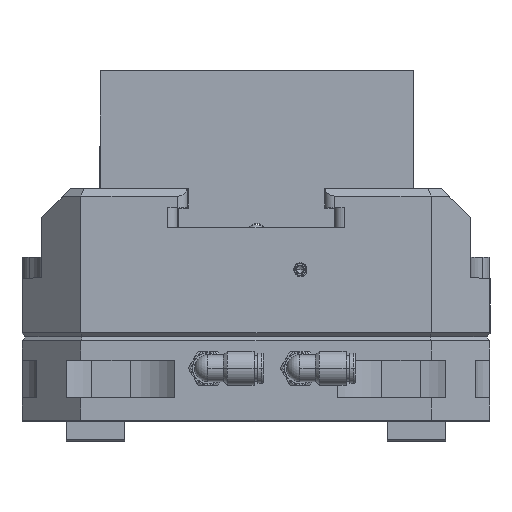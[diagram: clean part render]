
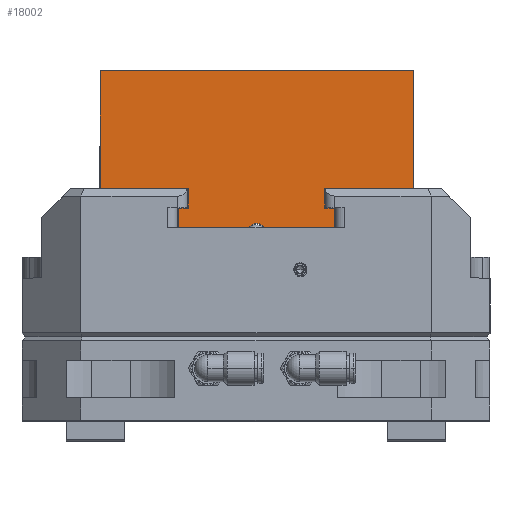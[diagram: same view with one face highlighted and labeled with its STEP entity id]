
A CAD part, top view. The second image highlights one B-rep face of the part: STEP entity #18002.
In plain terms, the highlighted planar face has unit normal (0, 0, 1).
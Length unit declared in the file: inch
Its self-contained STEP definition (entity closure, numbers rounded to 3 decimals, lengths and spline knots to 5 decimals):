
#107 = LINE ( 'NONE', #4350, #9128 ) ;
#203 = CARTESIAN_POINT ( 'NONE',  ( 1.29162, 2.13986, 3.38263 ) ) ;
#982 = VERTEX_POINT ( 'NONE', #10573 ) ;
#1047 = LINE ( 'NONE', #7465, #10092 ) ;
#1134 = EDGE_CURVE ( 'NONE', #982, #17897, #1047, .T. ) ;
#1209 = CARTESIAN_POINT ( 'NONE',  ( 0.28662, 1.88486, 3.38263 ) ) ;
#1356 = VECTOR ( 'NONE', #3711, 39.37008 ) ;
#1417 = DIRECTION ( 'NONE',  ( 0., 0., 1. ) ) ;
#1503 = EDGE_CURVE ( 'NONE', #21322, #16921, #8671, .T. ) ;
#1657 = CARTESIAN_POINT ( 'NONE',  ( -2.70838, 2.13986, 3.38263 ) ) ;
#1670 = ORIENTED_EDGE ( 'NONE', *, *, #6377, .T. ) ;
#1686 = LINE ( 'NONE', #13272, #6513 ) ;
#1924 = LINE ( 'NONE', #16207, #1356 ) ;
#1985 = DIRECTION ( 'NONE',  ( -1., 0., 0. ) ) ;
#2289 = CARTESIAN_POINT ( 'NONE',  ( 0.28662, 1.88486, 3.38263 ) ) ;
#3146 = LINE ( 'NONE', #14733, #11573 ) ;
#3182 = AXIS2_PLACEMENT_3D ( 'NONE', #7374, #12737, #1985 ) ;
#3466 = CARTESIAN_POINT ( 'NONE',  ( 1.29162, 2.13986, 3.38263 ) ) ;
#3711 = DIRECTION ( 'NONE',  ( 1., 0., 0. ) ) ;
#4014 = DIRECTION ( 'NONE',  ( 0., 1., 0. ) ) ;
#4021 = VERTEX_POINT ( 'NONE', #12891 ) ;
#4068 = VERTEX_POINT ( 'NONE', #18370 ) ;
#4169 = ORIENTED_EDGE ( 'NONE', *, *, #19452, .T. ) ;
#4242 = ORIENTED_EDGE ( 'NONE', *, *, #1503, .T. ) ;
#4350 = CARTESIAN_POINT ( 'NONE',  ( 0.16212, 1.88486, 3.38263 ) ) ;
#4554 = ORIENTED_EDGE ( 'NONE', *, *, #17189, .T. ) ;
#4654 = EDGE_LOOP ( 'NONE', ( #7060, #11845, #13523, #19040, #9666, #4242, #1670, #9730, #12095, #4554, #15351, #12847, #14062, #4169 ) ) ;
#4867 = CARTESIAN_POINT ( 'NONE',  ( -1.70338, 1.88486, 3.38263 ) ) ;
#5254 = CARTESIAN_POINT ( 'NONE',  ( -1.57888, 1.88486, 3.38263 ) ) ;
#5297 = VECTOR ( 'NONE', #18915, 39.37008 ) ;
#5752 = DIRECTION ( 'NONE',  ( 1., 0., 0. ) ) ;
#6017 = EDGE_CURVE ( 'NONE', #22630, #18989, #1924, .T. ) ;
#6086 = FACE_OUTER_BOUND ( 'NONE', #4654, .T. ) ;
#6377 = EDGE_CURVE ( 'NONE', #16921, #10516, #12018, .T. ) ;
#6513 = VECTOR ( 'NONE', #21782, 39.37008 ) ;
#6599 = DIRECTION ( 'NONE',  ( 0., 1., 0. ) ) ;
#6675 = EDGE_CURVE ( 'NONE', #10516, #4068, #19386, .T. ) ;
#6796 = VERTEX_POINT ( 'NONE', #15456 ) ;
#7060 = ORIENTED_EDGE ( 'NONE', *, *, #7131, .F. ) ;
#7104 = VERTEX_POINT ( 'NONE', #11953 ) ;
#7131 = EDGE_CURVE ( 'NONE', #22630, #4021, #14768, .T. ) ;
#7374 = CARTESIAN_POINT ( 'NONE',  ( -0.70838, 2.63986, 3.38263 ) ) ;
#7435 = DIRECTION ( 'NONE',  ( 0., -1., 0. ) ) ;
#7465 = CARTESIAN_POINT ( 'NONE',  ( -1.57888, 1.88486, 3.38263 ) ) ;
#8120 = LINE ( 'NONE', #13337, #21393 ) ;
#8374 = CARTESIAN_POINT ( 'NONE',  ( -2.70838, 3.63986, 3.38263 ) ) ;
#8671 = LINE ( 'NONE', #203, #16968 ) ;
#9093 = CARTESIAN_POINT ( 'NONE',  ( 1.29162, 3.63986, 3.38263 ) ) ;
#9128 = VECTOR ( 'NONE', #15047, 39.37008 ) ;
#9574 = VECTOR ( 'NONE', #6599, 39.37008 ) ;
#9666 = ORIENTED_EDGE ( 'NONE', *, *, #22730, .T. ) ;
#9730 = ORIENTED_EDGE ( 'NONE', *, *, #6675, .T. ) ;
#10092 = VECTOR ( 'NONE', #7435, 39.37008 ) ;
#10259 = AXIS2_PLACEMENT_3D ( 'NONE', #12176, #1417, #13964 ) ;
#10516 = VERTEX_POINT ( 'NONE', #18331 ) ;
#10573 = CARTESIAN_POINT ( 'NONE',  ( -1.57888, 2.13986, 3.38263 ) ) ;
#10898 = PLANE ( 'NONE',  #3182 ) ;
#11260 = EDGE_CURVE ( 'NONE', #17897, #6796, #17174, .T. ) ;
#11544 = DIRECTION ( 'NONE',  ( 1., 0., 0. ) ) ;
#11573 = VECTOR ( 'NONE', #4014, 39.37008 ) ;
#11845 = ORIENTED_EDGE ( 'NONE', *, *, #6017, .T. ) ;
#11953 = CARTESIAN_POINT ( 'NONE',  ( 0.16212, 1.88486, 3.38263 ) ) ;
#12018 = LINE ( 'NONE', #9093, #16175 ) ;
#12095 = ORIENTED_EDGE ( 'NONE', *, *, #16644, .T. ) ;
#12176 = CARTESIAN_POINT ( 'NONE',  ( -0.70838, 1.56486, 3.38263 ) ) ;
#12707 = CARTESIAN_POINT ( 'NONE',  ( -0.60838, 1.63986, 3.38263 ) ) ;
#12737 = DIRECTION ( 'NONE',  ( 0., 0., -1. ) ) ;
#12847 = ORIENTED_EDGE ( 'NONE', *, *, #11260, .T. ) ;
#12891 = CARTESIAN_POINT ( 'NONE',  ( -0.80838, 1.63986, 3.38263 ) ) ;
#13272 = CARTESIAN_POINT ( 'NONE',  ( -1.70338, 1.63986, 3.38263 ) ) ;
#13337 = CARTESIAN_POINT ( 'NONE',  ( -1.57888, 2.13986, 3.38263 ) ) ;
#13363 = DIRECTION ( 'NONE',  ( 0., -1., 0. ) ) ;
#13523 = ORIENTED_EDGE ( 'NONE', *, *, #15901, .T. ) ;
#13834 = DIRECTION ( 'NONE',  ( -1., 0., 0. ) ) ;
#13946 = VECTOR ( 'NONE', #13363, 39.37008 ) ;
#13964 = DIRECTION ( 'NONE',  ( 1., 0., 0. ) ) ;
#14062 = ORIENTED_EDGE ( 'NONE', *, *, #14820, .T. ) ;
#14733 = CARTESIAN_POINT ( 'NONE',  ( 0.16212, 2.13986, 3.38263 ) ) ;
#14768 = CIRCLE ( 'NONE', #10259, 0.125 ) ;
#14820 = EDGE_CURVE ( 'NONE', #6796, #19726, #1686, .T. ) ;
#15047 = DIRECTION ( 'NONE',  ( -1., 0., 0. ) ) ;
#15137 = CARTESIAN_POINT ( 'NONE',  ( -2.70838, 2.13986, 3.38263 ) ) ;
#15351 = ORIENTED_EDGE ( 'NONE', *, *, #1134, .T. ) ;
#15456 = CARTESIAN_POINT ( 'NONE',  ( -1.70338, 1.88486, 3.38263 ) ) ;
#15901 = EDGE_CURVE ( 'NONE', #18989, #21513, #22728, .T. ) ;
#16175 = VECTOR ( 'NONE', #21188, 39.37008 ) ;
#16207 = CARTESIAN_POINT ( 'NONE',  ( 0.28662, 1.63986, 3.38263 ) ) ;
#16557 = DIRECTION ( 'NONE',  ( 1., 0., 0. ) ) ;
#16606 = VECTOR ( 'NONE', #13834, 39.37008 ) ;
#16644 = EDGE_CURVE ( 'NONE', #4068, #18459, #19631, .T. ) ;
#16879 = CARTESIAN_POINT ( 'NONE',  ( -1.70338, 1.63986, 3.38263 ) ) ;
#16921 = VERTEX_POINT ( 'NONE', #3466 ) ;
#16968 = VECTOR ( 'NONE', #16557, 39.37008 ) ;
#17174 = LINE ( 'NONE', #4867, #16606 ) ;
#17189 = EDGE_CURVE ( 'NONE', #18459, #982, #8120, .T. ) ;
#17897 = VERTEX_POINT ( 'NONE', #5254 ) ;
#17961 = LINE ( 'NONE', #18176, #22333 ) ;
#17964 = CARTESIAN_POINT ( 'NONE',  ( 0.16212, 2.13986, 3.38263 ) ) ;
#18002 = ADVANCED_FACE ( 'NONE', ( #6086 ), #10898, .F. ) ;
#18176 = CARTESIAN_POINT ( 'NONE',  ( 0.28662, 1.63986, 3.38263 ) ) ;
#18331 = CARTESIAN_POINT ( 'NONE',  ( 1.29162, 3.63986, 3.38263 ) ) ;
#18370 = CARTESIAN_POINT ( 'NONE',  ( -2.70838, 3.63986, 3.38263 ) ) ;
#18459 = VERTEX_POINT ( 'NONE', #1657 ) ;
#18589 = CARTESIAN_POINT ( 'NONE',  ( 0.28662, 1.63986, 3.38263 ) ) ;
#18915 = DIRECTION ( 'NONE',  ( -1., 0., 0. ) ) ;
#18989 = VERTEX_POINT ( 'NONE', #18589 ) ;
#19040 = ORIENTED_EDGE ( 'NONE', *, *, #21638, .T. ) ;
#19386 = LINE ( 'NONE', #8374, #5297 ) ;
#19452 = EDGE_CURVE ( 'NONE', #19726, #4021, #17961, .T. ) ;
#19631 = LINE ( 'NONE', #15137, #13946 ) ;
#19726 = VERTEX_POINT ( 'NONE', #16879 ) ;
#21188 = DIRECTION ( 'NONE',  ( 0., 1., 0. ) ) ;
#21322 = VERTEX_POINT ( 'NONE', #17964 ) ;
#21393 = VECTOR ( 'NONE', #11544, 39.37008 ) ;
#21513 = VERTEX_POINT ( 'NONE', #2289 ) ;
#21638 = EDGE_CURVE ( 'NONE', #21513, #7104, #107, .T. ) ;
#21782 = DIRECTION ( 'NONE',  ( 0., -1., 0. ) ) ;
#22333 = VECTOR ( 'NONE', #5752, 39.37008 ) ;
#22630 = VERTEX_POINT ( 'NONE', #12707 ) ;
#22728 = LINE ( 'NONE', #1209, #9574 ) ;
#22730 = EDGE_CURVE ( 'NONE', #7104, #21322, #3146, .T. ) ;
